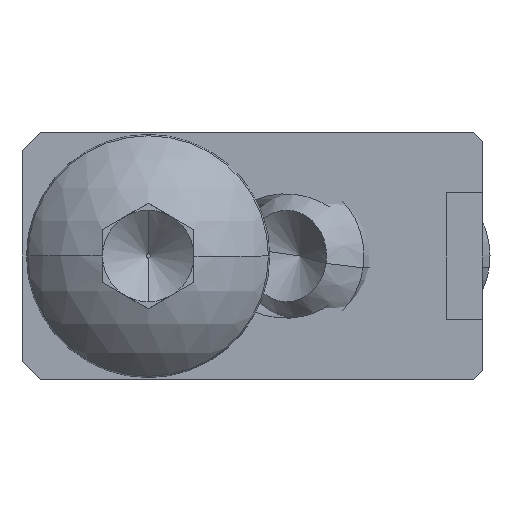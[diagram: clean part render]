
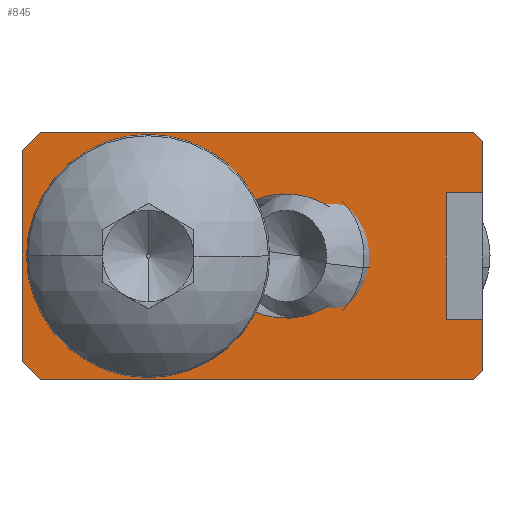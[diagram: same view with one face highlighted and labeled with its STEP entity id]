
A CAD part, front view. The second image highlights one B-rep face of the part: STEP entity #845.
In plain terms, the highlighted planar face has unit normal (0, -1, 0).
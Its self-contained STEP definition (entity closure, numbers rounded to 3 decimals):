
#1 = LINE ( 'NONE', #966, #714 ) ;
#5 = EDGE_CURVE ( 'NONE', #1357, #924, #315, .T. ) ;
#6 = CARTESIAN_POINT ( 'NONE',  ( 5.719, 0., 0. ) ) ;
#14 = VERTEX_POINT ( 'NONE', #1864 ) ;
#61 = EDGE_CURVE ( 'NONE', #1466, #14, #2400, .T. ) ;
#82 = CARTESIAN_POINT ( 'NONE',  ( -5.7, 0., 0. ) ) ;
#88 = CARTESIAN_POINT ( 'NONE',  ( 12.6, 0., 6.75 ) ) ;
#134 = EDGE_CURVE ( 'NONE', #904, #1979, #700, .T. ) ;
#142 = VECTOR ( 'NONE', #614, 1000. ) ;
#147 = EDGE_CURVE ( 'NONE', #1606, #339, #192, .T. ) ;
#178 = CARTESIAN_POINT ( 'NONE',  ( 10.6, 0., -3.45 ) ) ;
#186 = FACE_OUTER_BOUND ( 'NONE', #2468, .T. ) ;
#192 = LINE ( 'NONE', #1525, #902 ) ;
#212 = VERTEX_POINT ( 'NONE', #1977 ) ;
#211 = CARTESIAN_POINT ( 'NONE',  ( 0., 0., 0. ) ) ;
#225 = EDGE_CURVE ( 'NONE', #2252, #2325, #1773, .T. ) ;
#227 = DIRECTION ( 'NONE',  ( -1., 0., 0. ) ) ;
#236 = VECTOR ( 'NONE', #434, 1000. ) ;
#248 = EDGE_CURVE ( 'NONE', #2174, #212, #1394, .T. ) ;
#262 = ORIENTED_EDGE ( 'NONE', *, *, #225, .F. ) ;
#274 =( BOUNDED_CURVE ( )  B_SPLINE_CURVE ( 3, ( #761, #380, #1710, #1915 ),
 .UNSPECIFIED., .F., .T. ) 
 B_SPLINE_CURVE_WITH_KNOTS ( ( 4, 4 ),
 ( 0., 2.751 ),
 .UNSPECIFIED. ) 
 CURVE ( )  GEOMETRIC_REPRESENTATION_ITEM ( )  RATIONAL_B_SPLINE_CURVE ( ( 1., 0.463, 0.463, 1. ) ) 
 REPRESENTATION_ITEM ( '' )  );
#282 = LINE ( 'NONE', #1395, #142 ) ;
#315 = CIRCLE ( 'NONE', #395, 4.125 ) ;
#324 = EDGE_CURVE ( 'NONE', #2472, #212, #2310, .T. ) ;
#339 = VERTEX_POINT ( 'NONE', #808 ) ;
#380 = CARTESIAN_POINT ( 'NONE',  ( 5.719, 0., 4.805 ) ) ;
#388 = ORIENTED_EDGE ( 'NONE', *, *, #61, .F. ) ;
#390 = DIRECTION ( 'NONE',  ( 0., 0., -1. ) ) ;
#395 = AXIS2_PLACEMENT_3D ( 'NONE', #2240, #2213, #1102 ) ;
#415 = EDGE_CURVE ( 'NONE', #1035, #468, #2015, .T. ) ;
#419 = CARTESIAN_POINT ( 'NONE',  ( -12.6, 0., 6.75 ) ) ;
#427 = CARTESIAN_POINT ( 'NONE',  ( -1.783, 0., 1.295 ) ) ;
#434 = DIRECTION ( 'NONE',  ( 0., 0., 1. ) ) ;
#448 = CARTESIAN_POINT ( 'NONE',  ( -9.175, 0., 9.175 ) ) ;
#451 = ORIENTED_EDGE ( 'NONE', *, *, #134, .F. ) ;
#468 = VERTEX_POINT ( 'NONE', #1660 ) ;
#471 = CARTESIAN_POINT ( 'NONE',  ( 10.6, 0., 3.45 ) ) ;
#473 = VECTOR ( 'NONE', #1959, 1000. ) ;
#502 = VECTOR ( 'NONE', #1730, 1000. ) ;
#532 = CARTESIAN_POINT ( 'NONE',  ( -12.6, 0., -6.75 ) ) ;
#557 = VECTOR ( 'NONE', #227, 1000. ) ;
#598 = CARTESIAN_POINT ( 'NONE',  ( -1.783, 0., -1.295 ) ) ;
#603 = VERTEX_POINT ( 'NONE', #715 ) ;
#614 = DIRECTION ( 'NONE',  ( 0.707, 0., 0.707 ) ) ;
#634 = LINE ( 'NONE', #1168, #473 ) ;
#672 = ORIENTED_EDGE ( 'NONE', *, *, #2018, .F. ) ;
#700 =( BOUNDED_CURVE ( )  B_SPLINE_CURVE ( 3, ( #950, #727, #1713, #6 ),
 .UNSPECIFIED., .F., .T. ) 
 B_SPLINE_CURVE_WITH_KNOTS ( ( 4, 4 ),
 ( 3.532, 6.283 ),
 .UNSPECIFIED. ) 
 CURVE ( )  GEOMETRIC_REPRESENTATION_ITEM ( )  RATIONAL_B_SPLINE_CURVE ( ( 1., 0.463, 0.463, 1. ) ) 
 REPRESENTATION_ITEM ( '' )  );
#714 = VECTOR ( 'NONE', #2272, 1000. ) ;
#715 = CARTESIAN_POINT ( 'NONE',  ( 10.6, 0., -3.45 ) ) ;
#727 = CARTESIAN_POINT ( 'NONE',  ( 0.315, 0., -5.738 ) ) ;
#731 = EDGE_CURVE ( 'NONE', #603, #1035, #1892, .T. ) ;
#741 = ORIENTED_EDGE ( 'NONE', *, *, #415, .F. ) ;
#747 = PLANE ( 'NONE',  #1796 ) ;
#759 = FACE_BOUND ( 'NONE', #1856, .T. ) ;
#761 = CARTESIAN_POINT ( 'NONE',  ( 5.719, 0., 0. ) ) ;
#768 = DIRECTION ( 'NONE',  ( 0., -1., 0. ) ) ;
#808 = CARTESIAN_POINT ( 'NONE',  ( 12.1, 0., 6.75 ) ) ;
#845 = ADVANCED_FACE ( 'NONE', ( #186, #759 ), #747, .T. ) ;
#846 = ORIENTED_EDGE ( 'NONE', *, *, #1496, .F. ) ;
#857 = EDGE_CURVE ( 'NONE', #2174, #14, #1, .T. ) ;
#878 = ORIENTED_EDGE ( 'NONE', *, *, #248, .F. ) ;
#902 = VECTOR ( 'NONE', #1534, 1000. ) ;
#904 = VERTEX_POINT ( 'NONE', #598 ) ;
#924 = VERTEX_POINT ( 'NONE', #427 ) ;
#935 = DIRECTION ( 'NONE',  ( 1., 0., 0. ) ) ;
#950 = CARTESIAN_POINT ( 'NONE',  ( -1.783, 0., -1.295 ) ) ;
#966 = CARTESIAN_POINT ( 'NONE',  ( -9.175, 0., -9.175 ) ) ;
#990 = VECTOR ( 'NONE', #1449, 1000. ) ;
#1011 = ORIENTED_EDGE ( 'NONE', *, *, #5, .T. ) ;
#1025 = CARTESIAN_POINT ( 'NONE',  ( 10.6, 0., 3.45 ) ) ;
#1035 = VERTEX_POINT ( 'NONE', #2216 ) ;
#1065 = VECTOR ( 'NONE', #1634, 1000. ) ;
#1102 = DIRECTION ( 'NONE',  ( -1., 0., 0. ) ) ;
#1112 = ORIENTED_EDGE ( 'NONE', *, *, #147, .T. ) ;
#1135 = ORIENTED_EDGE ( 'NONE', *, *, #1342, .F. ) ;
#1168 = CARTESIAN_POINT ( 'NONE',  ( 10.6, 0., 3.45 ) ) ;
#1236 = DIRECTION ( 'NONE',  ( -1., 0., 0. ) ) ;
#1254 = ORIENTED_EDGE ( 'NONE', *, *, #731, .F. ) ;
#1289 = CARTESIAN_POINT ( 'NONE',  ( 12.6, 0., 6.75 ) ) ;
#1342 = EDGE_CURVE ( 'NONE', #2325, #603, #634, .T. ) ;
#1353 = CARTESIAN_POINT ( 'NONE',  ( 5.719, 0., 0. ) ) ;
#1357 = VERTEX_POINT ( 'NONE', #1765 ) ;
#1394 = LINE ( 'NONE', #1586, #236 ) ;
#1395 = CARTESIAN_POINT ( 'NONE',  ( 9.425, 0., -9.425 ) ) ;
#1417 = DIRECTION ( 'NONE',  ( -0.707, 0., -0.707 ) ) ;
#1432 = EDGE_CURVE ( 'NONE', #904, #1357, #2414, .T. ) ;
#1442 = ORIENTED_EDGE ( 'NONE', *, *, #324, .T. ) ;
#1445 = DIRECTION ( 'NONE',  ( 0., 1., 0. ) ) ;
#1449 = DIRECTION ( 'NONE',  ( 0., 0., -1. ) ) ;
#1466 = VERTEX_POINT ( 'NONE', #2234 ) ;
#1485 = ORIENTED_EDGE ( 'NONE', *, *, #2329, .T. ) ;
#1496 = EDGE_CURVE ( 'NONE', #1606, #2252, #1642, .T. ) ;
#1525 = CARTESIAN_POINT ( 'NONE',  ( 9.425, 0., 9.425 ) ) ;
#1533 = ORIENTED_EDGE ( 'NONE', *, *, #1432, .T. ) ;
#1534 = DIRECTION ( 'NONE',  ( -0.707, 0., 0.707 ) ) ;
#1561 = CARTESIAN_POINT ( 'NONE',  ( -11.6, 0., 6.75 ) ) ;
#1581 = AXIS2_PLACEMENT_3D ( 'NONE', #82, #1445, #1236 ) ;
#1586 = CARTESIAN_POINT ( 'NONE',  ( -12.6, 0., 6.75 ) ) ;
#1606 = VERTEX_POINT ( 'NONE', #1715 ) ;
#1633 = VECTOR ( 'NONE', #1417, 1000. ) ;
#1634 = DIRECTION ( 'NONE',  ( 0., 0., -1. ) ) ;
#1641 = DIRECTION ( 'NONE',  ( -1., 0., 0. ) ) ;
#1642 = LINE ( 'NONE', #1289, #1065 ) ;
#1660 = CARTESIAN_POINT ( 'NONE',  ( 12.6, 0., -6.25 ) ) ;
#1686 = LINE ( 'NONE', #419, #502 ) ;
#1710 = CARTESIAN_POINT ( 'NONE',  ( 0.315, 0., 5.738 ) ) ;
#1713 = CARTESIAN_POINT ( 'NONE',  ( 5.719, 0., -4.805 ) ) ;
#1715 = CARTESIAN_POINT ( 'NONE',  ( 12.6, 0., 6.25 ) ) ;
#1730 = DIRECTION ( 'NONE',  ( 1., 0., 0. ) ) ;
#1765 = CARTESIAN_POINT ( 'NONE',  ( -9.825, 0., 0. ) ) ;
#1773 = LINE ( 'NONE', #1025, #557 ) ;
#1789 = ORIENTED_EDGE ( 'NONE', *, *, #857, .T. ) ;
#1796 = AXIS2_PLACEMENT_3D ( 'NONE', #211, #768, #390 ) ;
#1856 = EDGE_LOOP ( 'NONE', ( #451, #1533, #1011, #2327 ) ) ;
#1857 = CARTESIAN_POINT ( 'NONE',  ( 12.6, 0., 3.45 ) ) ;
#1864 = CARTESIAN_POINT ( 'NONE',  ( -11.6, 0., -6.75 ) ) ;
#1892 = LINE ( 'NONE', #178, #2077 ) ;
#1915 = CARTESIAN_POINT ( 'NONE',  ( -1.783, 0., 1.295 ) ) ;
#1959 = DIRECTION ( 'NONE',  ( 0., 0., -1. ) ) ;
#1977 = CARTESIAN_POINT ( 'NONE',  ( -12.6, 0., 5.75 ) ) ;
#1979 = VERTEX_POINT ( 'NONE', #1353 ) ;
#2015 = LINE ( 'NONE', #88, #990 ) ;
#2018 = EDGE_CURVE ( 'NONE', #2472, #339, #1686, .T. ) ;
#2049 = EDGE_CURVE ( 'NONE', #1979, #924, #274, .T. ) ;
#2077 = VECTOR ( 'NONE', #935, 1000. ) ;
#2171 = CARTESIAN_POINT ( 'NONE',  ( -12.6, 0., -5.75 ) ) ;
#2174 = VERTEX_POINT ( 'NONE', #2171 ) ;
#2213 = DIRECTION ( 'NONE',  ( 0., 1., 0. ) ) ;
#2216 = CARTESIAN_POINT ( 'NONE',  ( 12.6, 0., -3.45 ) ) ;
#2234 = CARTESIAN_POINT ( 'NONE',  ( 12.1, 0., -6.75 ) ) ;
#2240 = CARTESIAN_POINT ( 'NONE',  ( -5.7, 0., 0. ) ) ;
#2252 = VERTEX_POINT ( 'NONE', #1857 ) ;
#2272 = DIRECTION ( 'NONE',  ( 0.707, 0., -0.707 ) ) ;
#2300 = VECTOR ( 'NONE', #1641, 1000. ) ;
#2310 = LINE ( 'NONE', #448, #1633 ) ;
#2325 = VERTEX_POINT ( 'NONE', #471 ) ;
#2327 = ORIENTED_EDGE ( 'NONE', *, *, #2049, .F. ) ;
#2329 = EDGE_CURVE ( 'NONE', #1466, #468, #282, .T. ) ;
#2400 = LINE ( 'NONE', #532, #2300 ) ;
#2414 = CIRCLE ( 'NONE', #1581, 4.125 ) ;
#2468 = EDGE_LOOP ( 'NONE', ( #1254, #1135, #262, #846, #1112, #672, #1442, #878, #1789, #388, #1485, #741 ) ) ;
#2472 = VERTEX_POINT ( 'NONE', #1561 ) ;
